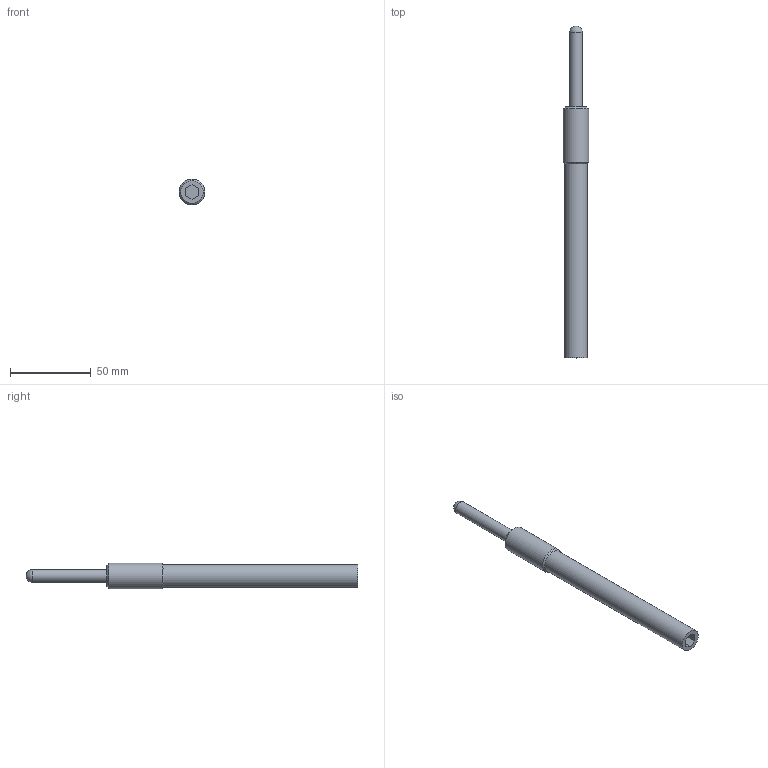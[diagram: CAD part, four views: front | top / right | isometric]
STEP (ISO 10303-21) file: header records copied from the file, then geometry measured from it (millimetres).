
FILE_DESCRIPTION( ( 'STEP AP203' ), '1' );
FILE_NAME( 'p:/temp/worker_1/temp/app_49_0201907041200157864374110e898ce_000000_00_00_000000/format_1/M314-04-014.stp', '2019-07-04T10:00:16', ( '' ), ( '' ), ' ', 'PARTsolutions', ' ' );
FILE_SCHEMA( ( 'CONFIG_CONTROL_DESIGN' ) );
Length unit declared in the file: millimetre
Products named in the file (1): _M314-04-014
Bounding box: 16 x 205 x 16 mm (x, y, z)
Volume: 27452.6 mm3; surface area: 8798.5 mm2
Topology: 1 solids, 1 shells, 15 faces, 32 edges, 20 vertices
Faces by surface type: plane 9, cylinder 3, cone 2, sphere 1
Full cylindrical faces by diameter (mm): 8 x1, 14 x1, 16 x1
Entity records: 410 total; most frequent: DIRECTION 64, CARTESIAN_POINT 61, ORIENTED_EDGE 50, EDGE_CURVE 25, AXIS2_PLACEMENT_3D 23, EDGE_LOOP 22, VERTEX_POINT 20, FACE_OUTER_BOUND 18
